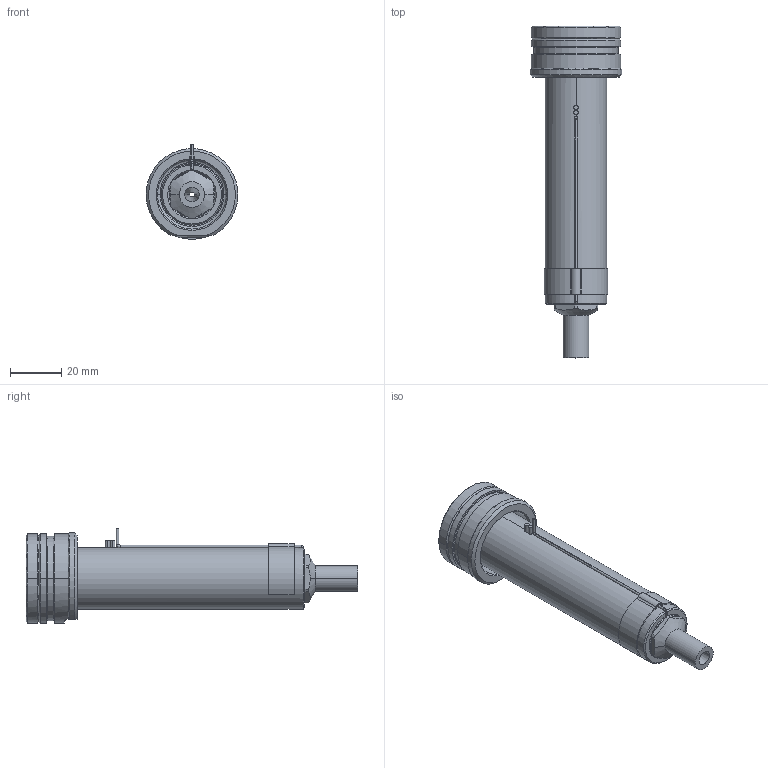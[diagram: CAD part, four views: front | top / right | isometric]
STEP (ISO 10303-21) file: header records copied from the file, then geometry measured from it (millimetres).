
FILE_DESCRIPTION((''),'2;1');
FILE_NAME('EO06_SG_ESG_100_SW','2024-02-19T12:18:39',('sundharh'),(''),'CREO PARAMETRIC BY PTC INC, 2023154','CREO PARAMETRIC BY PTC INC, 2023154','');
FILE_SCHEMA(('CONFIG_CONTROL_DESIGN'));
Length unit declared in the file: millimetre
Products named in the file (1): EO06_SG_ESG_100_SW
Bounding box: 35.93 x 130 x 37 mm (x, y, z)
Volume: 56471.9 mm3; surface area: 16883.3 mm2
Topology: 2 solids, 2 shells, 168 faces, 429 edges, 259 vertices
Faces by surface type: cylinder 68, plane 40, cone 30, torus 21, bspline 6, sphere 3
Entity records: 5757 total; most frequent: CARTESIAN_POINT 1655, DIRECTION 900, ORIENTED_EDGE 838, EDGE_CURVE 419, AXIS2_PLACEMENT_3D 375, VERTEX_POINT 259, CIRCLE 213, EDGE_LOOP 182
